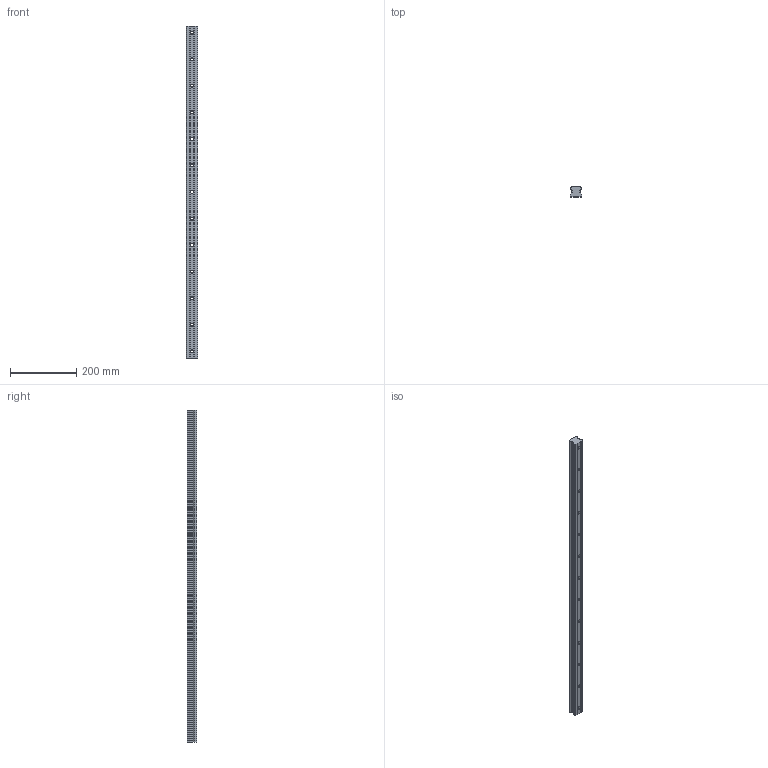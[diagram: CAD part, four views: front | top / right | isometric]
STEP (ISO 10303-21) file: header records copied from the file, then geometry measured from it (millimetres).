
FILE_DESCRIPTION (( 'STEP AP214' ), '1' );
FILE_NAME ('2.0005 Lineaarijohde HGR35R-C.STEP', '2024-04-19T12:46:57', ( '' ), ( '' ), 'SwSTEP 2.0', 'SolidWorks 2024', '' );
FILE_SCHEMA (( 'AUTOMOTIVE_DESIGN' ));
Length unit declared in the file: millimetre
Products named in the file (1): 2.0005 Lineaarijohde HGR35R-C
Bounding box: 34 x 29 x 1000 mm (x, y, z)
Volume: 813038.7 mm3; surface area: 143501.1 mm2
Topology: 1 solids, 1 shells, 105 faces, 270 edges, 180 vertices
Faces by surface type: cylinder 62, plane 43
Entity records: 3323 total; most frequent: DIRECTION 606, CARTESIAN_POINT 556, ORIENTED_EDGE 540, EDGE_CURVE 270, AXIS2_PLACEMENT_3D 230, VERTEX_POINT 180, LINE 146, VECTOR 146
